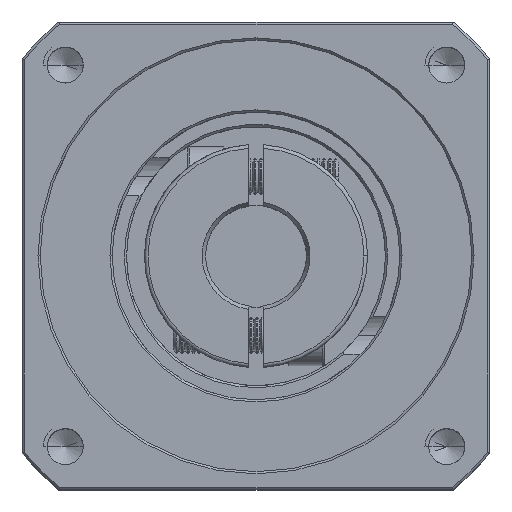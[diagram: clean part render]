
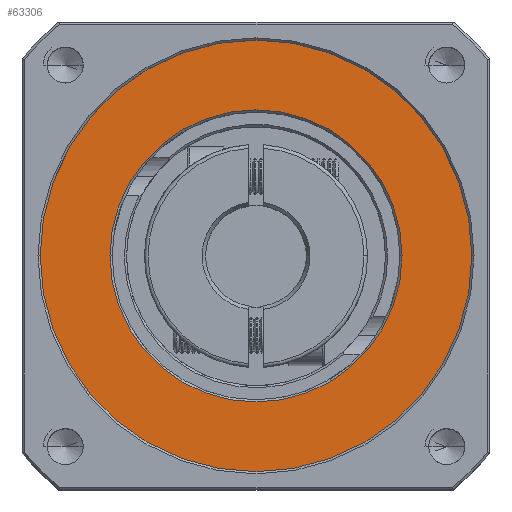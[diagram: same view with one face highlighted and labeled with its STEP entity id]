
A CAD part, top view. The second image highlights one B-rep face of the part: STEP entity #63306.
In plain terms, the highlighted planar face has unit normal (0, 0, 1).
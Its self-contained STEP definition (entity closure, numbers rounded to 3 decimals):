
#132 = AXIS2_PLACEMENT_3D ( 'NONE', #34796, #89793, #42703 ) ;
#1574 = DIRECTION ( 'NONE',  ( 1., 0., 0. ) ) ;
#11109 = CARTESIAN_POINT ( 'NONE',  ( -95.47, 28.173, 12.447 ) ) ;
#13675 = CARTESIAN_POINT ( 'NONE',  ( -65.47, 28.173, 12.447 ) ) ;
#14137 = VERTEX_POINT ( 'NONE', #11109 ) ;
#15621 = VERTEX_POINT ( 'NONE', #57633 ) ;
#15991 = ORIENTED_EDGE ( 'NONE', *, *, #38340, .T. ) ;
#17551 = ORIENTED_EDGE ( 'NONE', *, *, #22039, .T. ) ;
#17974 = ORIENTED_EDGE ( 'NONE', *, *, #24757, .T. ) ;
#19006 = ORIENTED_EDGE ( 'NONE', *, *, #58199, .T. ) ;
#19458 = DIRECTION ( 'NONE',  ( 0., 0., 1. ) ) ;
#20203 = CARTESIAN_POINT ( 'NONE',  ( -45.17, 28.173, 12.447 ) ) ;
#21581 = DIRECTION ( 'NONE',  ( 1., 0., 0. ) ) ;
#22039 = EDGE_CURVE ( 'NONE', #68532, #50205, #53980, .T. ) ;
#24037 = AXIS2_PLACEMENT_3D ( 'NONE', #66725, #19458, #74583 ) ;
#24757 = EDGE_CURVE ( 'NONE', #15621, #14137, #40278, .T. ) ;
#31513 = AXIS2_PLACEMENT_3D ( 'NONE', #34517, #89522, #42422 ) ;
#34517 = CARTESIAN_POINT ( 'NONE',  ( -65.47, 28.173, 12.447 ) ) ;
#34796 = CARTESIAN_POINT ( 'NONE',  ( -65.47, 28.173, 12.447 ) ) ;
#35815 = AXIS2_PLACEMENT_3D ( 'NONE', #95754, #48806, #1574 ) ;
#38340 = EDGE_CURVE ( 'NONE', #50205, #68532, #63461, .T. ) ;
#40278 = CIRCLE ( 'NONE', #75134, 30. ) ;
#42361 = PLANE ( 'NONE',  #132 ) ;
#42422 = DIRECTION ( 'NONE',  ( 1., 0., 0. ) ) ;
#42703 = DIRECTION ( 'NONE',  ( 1., 0., 0. ) ) ;
#48806 = DIRECTION ( 'NONE',  ( 0., 0., -1. ) ) ;
#50205 = VERTEX_POINT ( 'NONE', #20203 ) ;
#51044 = EDGE_LOOP ( 'NONE', ( #15991, #17551 ) ) ;
#53980 = CIRCLE ( 'NONE', #35815, 20.3 ) ;
#57633 = CARTESIAN_POINT ( 'NONE',  ( -35.47, 28.173, 12.447 ) ) ;
#58199 = EDGE_CURVE ( 'NONE', #14137, #15621, #68442, .T. ) ;
#59639 = FACE_BOUND ( 'NONE', #51044, .T. ) ;
#63306 = ADVANCED_FACE ( 'NONE', ( #59639, #64667 ), #42361, .T. ) ;
#63461 = CIRCLE ( 'NONE', #31513, 20.3 ) ;
#64667 = FACE_OUTER_BOUND ( 'NONE', #87710, .T. ) ;
#66725 = CARTESIAN_POINT ( 'NONE',  ( -65.47, 28.173, 12.447 ) ) ;
#68442 = CIRCLE ( 'NONE', #24037, 30. ) ;
#68532 = VERTEX_POINT ( 'NONE', #79710 ) ;
#68792 = DIRECTION ( 'NONE',  ( 0., 0., 1. ) ) ;
#74583 = DIRECTION ( 'NONE',  ( 1., 0., 0. ) ) ;
#75134 = AXIS2_PLACEMENT_3D ( 'NONE', #13675, #68792, #21581 ) ;
#79710 = CARTESIAN_POINT ( 'NONE',  ( -85.77, 28.173, 12.447 ) ) ;
#87710 = EDGE_LOOP ( 'NONE', ( #17974, #19006 ) ) ;
#89522 = DIRECTION ( 'NONE',  ( 0., 0., -1. ) ) ;
#89793 = DIRECTION ( 'NONE',  ( 0., 0., 1. ) ) ;
#95754 = CARTESIAN_POINT ( 'NONE',  ( -65.47, 28.173, 12.447 ) ) ;
